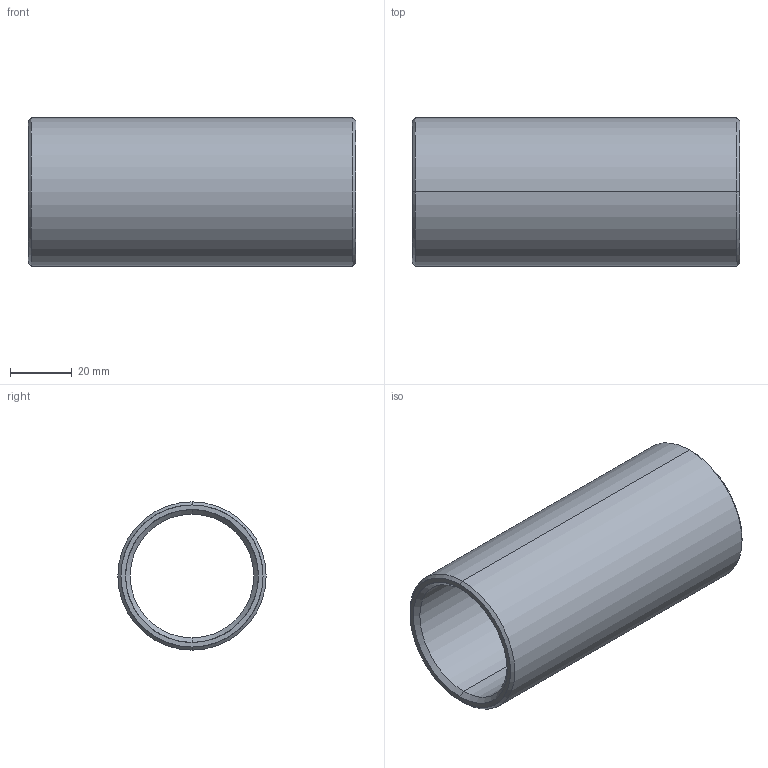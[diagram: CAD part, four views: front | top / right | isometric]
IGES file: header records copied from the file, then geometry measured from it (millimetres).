
Start section: START RECORD GO HERE.
Global section: file name: 352-40X106.igs; native system: DASSAULT SYSTEMES CATIA V5 R20 - www.3ds.com; preprocessor: CATIA Version 5 Release 20 ; author: Utente; organization: NB04-ASUS; date: 20210414.164944; units: millimetre
Bounding box: 106 x 48 x 48 mm (x, y, z)
Surface area: 30070.4 mm2 (no closed solid volume)
Topology: 0 solids, 0 shells, 14 faces, 88 edges, 88 vertices
Faces by surface type: revolution 12, plane 2
